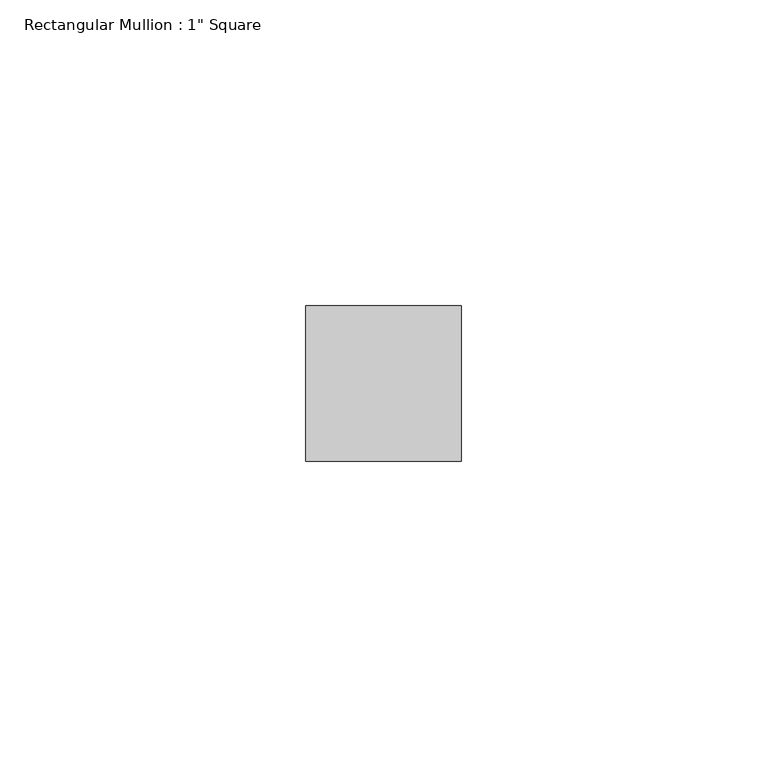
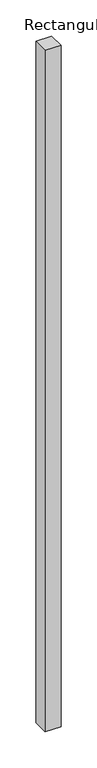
"""IFC4 building model written with IfcOpenShell, lengths in millimetres: member geometry."""

from ifc_helpers import new_model, si_unit, frame, origin, place, context, project, spatial, polyline, outline, extrude, source, transform, mapped, element, save


def member_88023728(model_context):
    return source(origin(), model_context, "Body", "SweptSolid", [
        extrude(outline(polyline([(12.7, 12.7), (12.7, -12.7), (-12.7, -12.7), (-12.7, 12.7), (12.7, 12.7)])), frame((0.0, 0.0, -1153.6926771), z_axis=(0.0, 0.0, 1.0), x_axis=(1.0, 0.0, 0.0)), (0.0, 0.0, 1.0), 1153.6926771),
    ])


if __name__ == "__main__":
    model = new_model("IFC4")
    model_context = context("Model", 3, world=origin())
    ifc_project = project(units=[si_unit("LENGTHUNIT", "METRE", prefix="MILLI")], contexts=[model_context])
    site = spatial("IfcSite", under=ifc_project)
    building = spatial("IfcBuilding", under=site)
    placement = place(None, origin())
    member_shape = member_88023728(model_context)
    element("IfcMember", 1, ObjectType="Rectangular Mullion : 1\" Square", at=placement, inside=building, context=model_context, shape_type="MappedRepresentation", body=[
        mapped(member_shape, transform((0.0, 0.0, 0.0), x_axis=(1.0, 0.0, 0.0), y_axis=(0.0, 1.0, 0.0), z_axis=(0.0, 0.0, 1.0))),
    ])
    save(model, "model.ifc")
